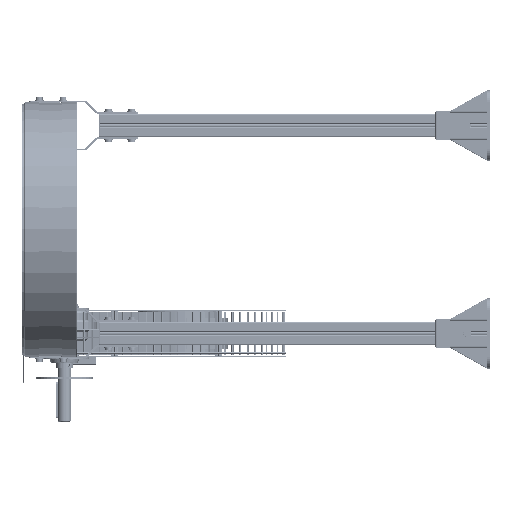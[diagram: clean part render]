
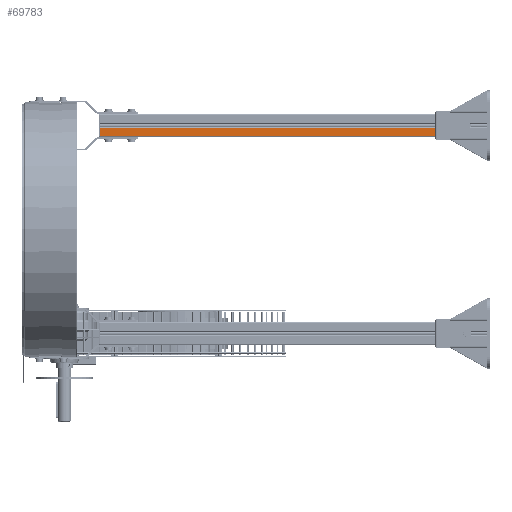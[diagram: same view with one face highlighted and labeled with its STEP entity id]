
A CAD part, left-side view. The second image highlights one B-rep face of the part: STEP entity #69783.
In plain terms, the highlighted planar face has unit normal (-1, 0, 0) as drawn and (0, -1, 0) by its records, which use the part's own axes.
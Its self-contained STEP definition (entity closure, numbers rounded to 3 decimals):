
#1055 = CARTESIAN_POINT ( 'NONE',  ( -750., -22.5, -4.15 ) ) ;
#1176 = DIRECTION ( 'NONE',  ( 0., 0., 1. ) ) ;
#5575 = EDGE_LOOP ( 'NONE', ( #116556, #19817, #15875, #118506 ) ) ;
#6321 = CARTESIAN_POINT ( 'NONE',  ( 0., -22.5, -4.15 ) ) ;
#9817 = VECTOR ( 'NONE', #83092, 1000. ) ;
#10113 = DIRECTION ( 'NONE',  ( 0., 0., 1. ) ) ;
#10205 = LINE ( 'NONE', #1055, #13727 ) ;
#10458 = VERTEX_POINT ( 'NONE', #18918 ) ;
#10611 = EDGE_CURVE ( 'NONE', #73935, #42931, #46198, .T. ) ;
#11788 = VECTOR ( 'NONE', #83160, 1000. ) ;
#13727 = VECTOR ( 'NONE', #78051, 1000. ) ;
#15875 = ORIENTED_EDGE ( 'NONE', *, *, #33015, .F. ) ;
#18918 = CARTESIAN_POINT ( 'NONE',  ( -750., -22.5, -4.15 ) ) ;
#19817 = ORIENTED_EDGE ( 'NONE', *, *, #55805, .F. ) ;
#20618 = VECTOR ( 'NONE', #10113, 1000. ) ;
#21002 = CARTESIAN_POINT ( 'NONE',  ( -750., -22.5, -20. ) ) ;
#33015 = EDGE_CURVE ( 'NONE', #73935, #10458, #56207, .T. ) ;
#42931 = VERTEX_POINT ( 'NONE', #86359 ) ;
#46198 = LINE ( 'NONE', #111682, #11788 ) ;
#47191 = EDGE_CURVE ( 'NONE', #42931, #110030, #100167, .T. ) ;
#47322 = FACE_OUTER_BOUND ( 'NONE', #5575, .T. ) ;
#55805 = EDGE_CURVE ( 'NONE', #10458, #110030, #10205, .T. ) ;
#56207 = LINE ( 'NONE', #75562, #20618 ) ;
#66732 = CARTESIAN_POINT ( 'NONE',  ( -750., -22.5, -20. ) ) ;
#67813 = AXIS2_PLACEMENT_3D ( 'NONE', #66732, #84271, #1176 ) ;
#69783 = ADVANCED_FACE ( 'NONE', ( #47322 ), #95244, .F. ) ;
#73935 = VERTEX_POINT ( 'NONE', #21002 ) ;
#75562 = CARTESIAN_POINT ( 'NONE',  ( -750., -22.5, -20. ) ) ;
#78051 = DIRECTION ( 'NONE',  ( 1., 0., 0. ) ) ;
#83092 = DIRECTION ( 'NONE',  ( 0., 0., 1. ) ) ;
#83160 = DIRECTION ( 'NONE',  ( 1., 0., 0. ) ) ;
#84271 = DIRECTION ( 'NONE',  ( 0., 1., 0. ) ) ;
#86359 = CARTESIAN_POINT ( 'NONE',  ( 0., -22.5, -20. ) ) ;
#95244 = PLANE ( 'NONE',  #67813 ) ;
#100167 = LINE ( 'NONE', #110435, #9817 ) ;
#110030 = VERTEX_POINT ( 'NONE', #6321 ) ;
#110435 = CARTESIAN_POINT ( 'NONE',  ( 0., -22.5, -20. ) ) ;
#111682 = CARTESIAN_POINT ( 'NONE',  ( -750., -22.5, -20. ) ) ;
#116556 = ORIENTED_EDGE ( 'NONE', *, *, #47191, .T. ) ;
#118506 = ORIENTED_EDGE ( 'NONE', *, *, #10611, .T. ) ;
